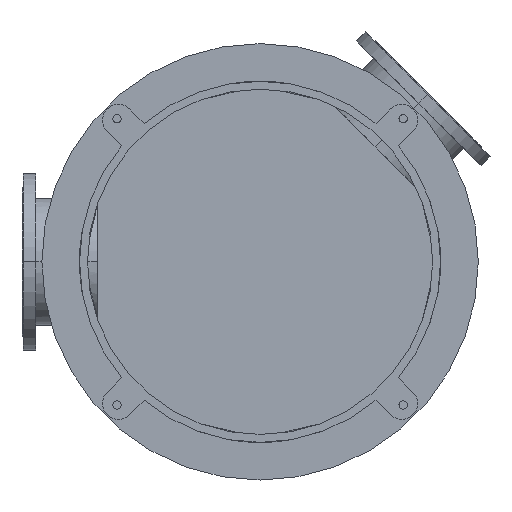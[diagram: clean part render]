
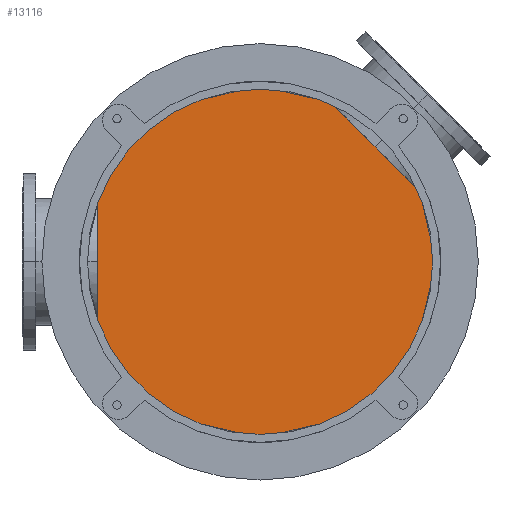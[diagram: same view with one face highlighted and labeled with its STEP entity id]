
A CAD part, front view. The second image highlights one B-rep face of the part: STEP entity #13116.
In plain terms, the highlighted planar face has unit normal (0, -1, 0).
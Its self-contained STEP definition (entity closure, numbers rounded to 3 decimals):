
#3583=CARTESIAN_POINT('',(0.,1000.,0.));
#3584=DIRECTION('',(0.,-1.,0.));
#3585=DIRECTION('',(0.,0.,-1.));
#3586=AXIS2_PLACEMENT_3D('',#3583,#3584,#3585);
#3711=CARTESIAN_POINT('',(0.,1000.,0.));
#3712=DIRECTION('',(0.,-1.,0.));
#3713=DIRECTION('',(0.,0.,1.));
#3714=AXIS2_PLACEMENT_3D('',#3711,#3712,#3713);
#7273=CARTESIAN_POINT('',(0.,1000.,450.));
#7274=CARTESIAN_POINT('',(0.,1000.,-450.));
#7275=VERTEX_POINT('',#7273);
#7276=VERTEX_POINT('',#7274);
#13107=CARTESIAN_POINT('',(0.,1000.,0.));
#13108=DIRECTION('',(0.,1.,0.));
#13109=DIRECTION('',(0.,0.,-1.));
#13110=AXIS2_PLACEMENT_3D('',#13107,#13108,#13109);
#13111=PLANE('',#13110);
#13112=ORIENTED_EDGE('',*,*,#13093,.F.);
#13113=ORIENTED_EDGE('',*,*,#12994,.F.);
#13114=EDGE_LOOP('',(#13112,#13113));
#13115=FACE_OUTER_BOUND('',#13114,.F.);
#13116=ADVANCED_FACE('',(#13115),#13111,.F.);
#3587=CIRCLE('',#3586,450.);
#3715=CIRCLE('',#3714,450.);
#12994=EDGE_CURVE('',#7276,#7275,#3587,.T.);
#13093=EDGE_CURVE('',#7275,#7276,#3715,.T.);
